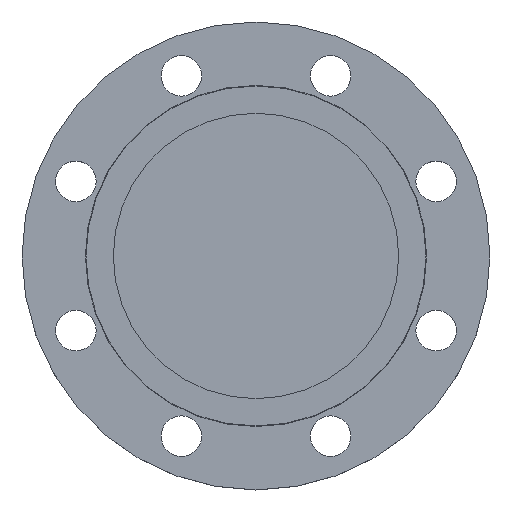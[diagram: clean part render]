
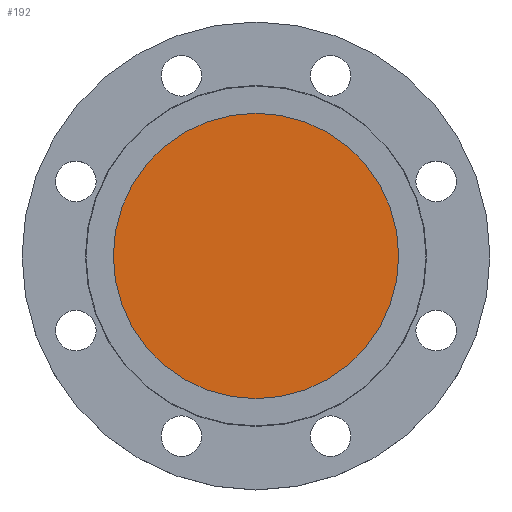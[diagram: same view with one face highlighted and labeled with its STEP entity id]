
A CAD part, top view. The second image highlights one B-rep face of the part: STEP entity #192.
In plain terms, the highlighted planar face has unit normal (0, 0, 1).
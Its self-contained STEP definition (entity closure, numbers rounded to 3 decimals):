
#95 = AXIS2_PLACEMENT_3D ( 'NONE', #252, #251, #247 ) ;
#192 = ADVANCED_FACE ( 'NONE', ( #663 ), #643, .T. ) ;
#227 = CARTESIAN_POINT ( 'NONE',  ( -91.5, 0., -5. ) ) ;
#247 = DIRECTION ( 'NONE',  ( -1., 0., 0. ) ) ;
#251 = DIRECTION ( 'NONE',  ( 0., 0., -1. ) ) ;
#252 = CARTESIAN_POINT ( 'NONE',  ( 0., 0., -5. ) ) ;
#348 = DIRECTION ( 'NONE',  ( -1., 0., 0. ) ) ;
#349 = DIRECTION ( 'NONE',  ( 0., 0., -1. ) ) ;
#350 = CARTESIAN_POINT ( 'NONE',  ( 0., 0., -5. ) ) ;
#486 = CARTESIAN_POINT ( 'NONE',  ( 91.5, 0., -5. ) ) ;
#525 = AXIS2_PLACEMENT_3D ( 'NONE', #666, #639, #646 ) ;
#529 = VERTEX_POINT ( 'NONE', #486 ) ;
#639 = DIRECTION ( 'NONE',  ( 0., 0., 1. ) ) ;
#643 = PLANE ( 'NONE',  #525 ) ;
#646 = DIRECTION ( 'NONE',  ( 1., 0., 0. ) ) ;
#663 = FACE_OUTER_BOUND ( 'NONE', #876, .T. ) ;
#666 = CARTESIAN_POINT ( 'NONE',  ( 0., 0., -5. ) ) ;
#757 = CIRCLE ( 'NONE', #845, 91.5 ) ;
#782 = EDGE_CURVE ( 'NONE', #529, #860, #757, .T. ) ;
#845 = AXIS2_PLACEMENT_3D ( 'NONE', #350, #349, #348 ) ;
#848 = EDGE_CURVE ( 'NONE', #860, #529, #1065, .T. ) ;
#860 = VERTEX_POINT ( 'NONE', #227 ) ;
#876 = EDGE_LOOP ( 'NONE', ( #1081, #1082 ) ) ;
#1065 = CIRCLE ( 'NONE', #95, 91.5 ) ;
#1081 = ORIENTED_EDGE ( 'NONE', *, *, #848, .F. ) ;
#1082 = ORIENTED_EDGE ( 'NONE', *, *, #782, .F. ) ;
